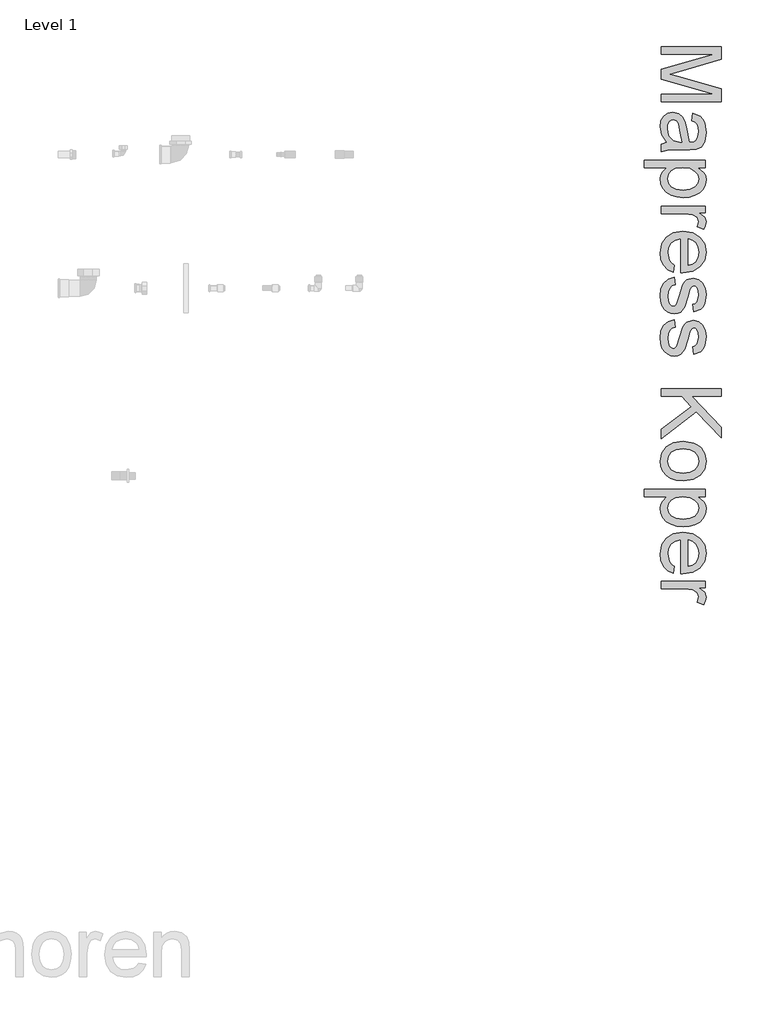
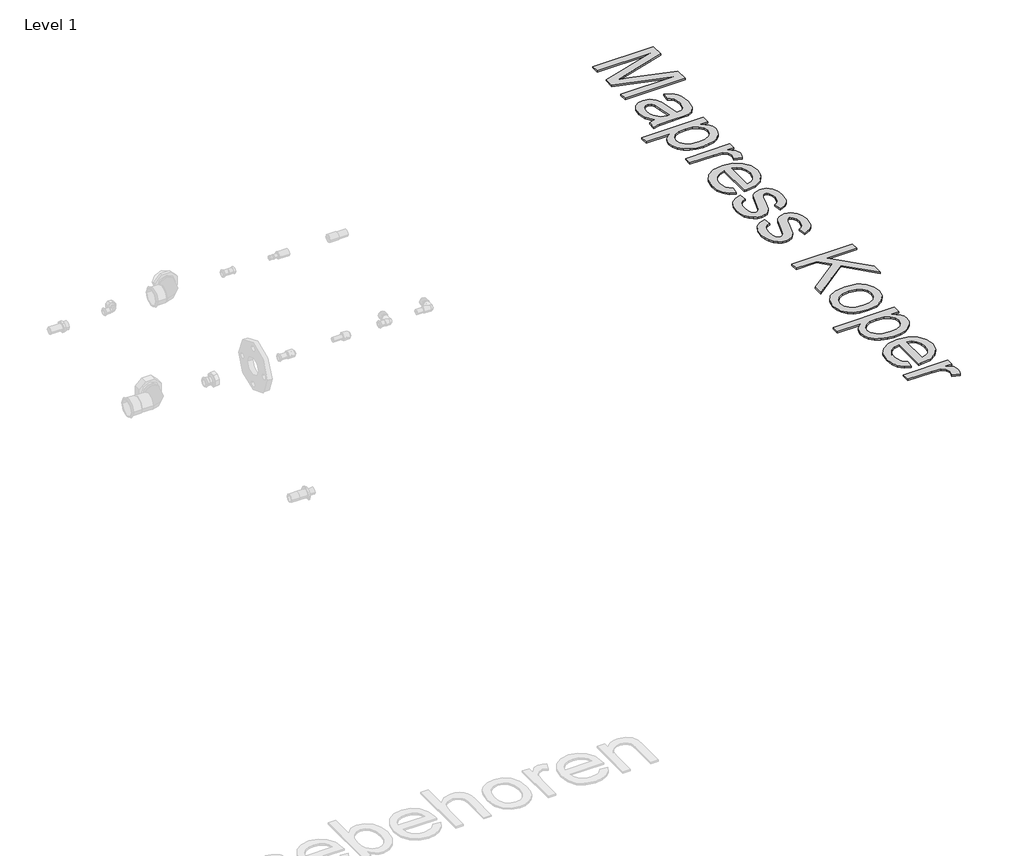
# One storey, part 7 of 7: 1 proxy.
"""IFC4 building model written with IfcOpenShell, lengths in millimetres."""

from ifc_helpers import new_model, si_unit, origin, origin_with_axes, place, context, project, spatial, polyline, outline, extrude, element, save

model = new_model("IFC4")

# Units and contexts
model_context = context("Model", 3, world=origin())
ifc_project = project(units=[si_unit("LENGTHUNIT", "METRE", prefix="MILLI")], contexts=[model_context])

# Site, building, storey
site = spatial("IfcSite", under=ifc_project)
building = spatial("IfcBuilding", under=site)
storey = spatial("IfcBuildingStorey", under=building, Name="Level 1", Elevation=0.0)

# Proxy
placement = place(None, origin())
element("IfcBuildingElementProxy", 1, Name="medium", ObjectType="medium", at=placement, inside=storey, context=model_context, shape_type="SweptSolid", body=[
    extrude(outline(polyline([(7789.7638481, 6032.6824827), (7990.6764684, 6032.6824827), (7990.6764684, 5989.468611), (7849.0664258, 5948.3639294), (7819.4887134, 5940.0743218), (7851.5189724, 5931.0980011), (7990.6764684, 5890.6800326), (7990.6764684, 5847.4661609), (7789.7638481, 5847.4661609), (7789.7638481, 5872.5802384), (7965.5623909, 5872.5802384), (7789.7638481, 5923.0536482), (7789.7638481, 5957.0949954), (7965.5623909, 6007.5684052), (7789.7638481, 6007.5684052), (7789.7638481, 6032.6824827)])), origin_with_axes(), (0.0, 0.0, 1.0), 5.0),
    extrude(outline(polyline([(7808.5994063, 5712.4779941), (7791.5787327, 5736.8317822), (7786.6245885, 5763.7362188), (7789.6044326, 5784.7238866), (7798.5439651, 5800.2055872), (7812.1188107, 5809.752125), (7829.0045943, 5812.9343043), (7848.870222, 5808.1273129), (7863.2911962, 5795.4966977), (7871.5317529, 5777.9119383), (7875.3086748, 5756.1823751), (7883.9416389, 5712.6251469), (7889.5334452, 5712.4779941), (7900.7415834, 5714.2070395), (7908.0746978, 5719.3941756), (7913.5193513, 5730.9947212), (7915.3342358, 5747.1570035), (7914.1263566, 5762.117538), (7910.502719, 5772.5653867), (7903.8011353, 5779.6900346), (7893.359418, 5784.680967), (7896.4986777, 5809.7950446), (7921.024144, 5798.930263), (7929.2769634, 5789.6718994), (7935.3960673, 5777.053547), (7940.4483134, 5743.919642), (7935.9846785, 5713.4835382), (7924.7765404, 5696.2911863), (7907.7313413, 5688.5901899), (7885.7565234, 5687.3639166), (7854.5110793, 5687.3639166), (7810.8802747, 5686.0885923), (7789.7638481, 5681.0853972), (7789.7638481, 5706.1994747), (7808.5994063, 5712.4779941)]), holes=[polyline([(7858.8275614, 5712.4779941), (7851.1265649, 5752.9940645), (7847.0553375, 5774.6010004), (7840.4334616, 5784.3866614), (7830.7704279, 5787.8202267), (7823.3024234, 5785.9501599), (7817.1833195, 5780.3399595), (7813.0998294, 5771.1122528), (7811.738666, 5758.3896671), (7813.2408508, 5744.9006606), (7817.7474052, 5732.981284), (7832.2910068, 5716.5982725), (7851.7151761, 5712.6251469), (7858.8275614, 5712.4779941)])]), origin_with_axes(), (0.0, 0.0, 1.0), 5.0),
    extrude(outline(polyline([(7733.2571737, 5652.83206), (7937.3090537, 5652.83206), (7937.3090537, 5627.7179824), (7912.6854855, 5627.7179824), (7933.5076064, 5610.3539523), (7938.7131366, 5599.6608489), (7940.4483134, 5586.9076064), (7938.0202922, 5569.923721), (7930.7362287, 5555.0735511), (7919.0375812, 5542.9824962), (7903.3658083, 5534.2759557), (7884.8613439, 5529.0152431), (7864.6646224, 5527.2616723), (7843.1864452, 5529.2421037), (7823.9768737, 5535.1833979), (7808.0107951, 5544.8954826), (7796.2630967, 5558.1882853), (7789.0342155, 5573.669986), (7786.6245885, 5589.9487643), (7788.2371379, 5601.4941275), (7793.0747861, 5611.8009548), (7809.3842212, 5627.7179824), (7733.2571737, 5627.7179824), (7733.2571737, 5652.83206)]), holes=[polyline([(7862.3592285, 5627.7179824), (7839.8448504, 5625.001787), (7824.099501, 5616.8532008), (7814.8288747, 5604.829591), (7811.738666, 5590.4883245), (7814.9392393, 5575.9140661), (7824.5409594, 5563.5838879), (7840.8626573, 5555.1777843), (7864.223164, 5552.3757498), (7886.6149147, 5555.1103393), (7902.5809933, 5563.3141078), (7912.1459252, 5575.3193236), (7915.3342358, 5589.4582549), (7911.9435901, 5603.6523686), (7901.7716529, 5616.1174368), (7885.1372554, 5624.817846), (7862.3592285, 5627.7179824)])]), origin_with_axes(), (0.0, 0.0, 1.0), 5.0),
    extrude(outline(polyline([(7789.7638481, 5499.008335), (7937.3090537, 5499.008335), (7937.3090537, 5477.0335172), (7915.4813886, 5477.0335172), (7935.592271, 5461.4353206), (7940.4483134, 5445.7390221), (7938.5108015, 5433.2310343), (7932.698266, 5420.5268427), (7910.1838879, 5428.9145522), (7915.3342358, 5446.572888), (7910.3800916, 5460.773133), (7896.6458305, 5469.8230301), (7867.3133727, 5473.8942575), (7789.7638481, 5473.8942575), (7789.7638481, 5499.008335)])), origin_with_axes(), (0.0, 0.0, 1.0), 5.0),
    extrude(outline(polyline([(7833.7134838, 5301.52928), (7830.5742241, 5276.9057118), (7812.0207089, 5285.7777993), (7798.1515576, 5299.9351247), (7789.5063307, 5319.0588571), (7786.6245885, 5342.8301654), (7791.5971268, 5372.2975132), (7806.5147417, 5394.9713068), (7830.4086772, 5409.4290692), (7862.3101776, 5414.2483234), (7895.2846671, 5409.3800183), (7919.9450235, 5394.7751031), (7935.3224909, 5372.4078778), (7940.4483134, 5344.2526424), (7935.3347536, 5316.9741925), (7919.9940744, 5295.1771843), (7895.382769, 5280.8849687), (7862.4573304, 5276.1208969), (7855.6883017, 5276.2680497), (7855.6883017, 5389.1342458), (7836.8895317, 5384.7871069), (7823.0694314, 5374.6887461), (7814.5713574, 5360.1144878), (7811.738666, 5342.339656), (7816.9871158, 5317.7160878), (7823.7929327, 5308.5680889), (7833.7134838, 5301.52928)]), holes=[polyline([(7880.8023792, 5389.1342458), (7880.8023792, 5301.2349744), (7894.0706565, 5304.6317515), (7903.562012, 5311.2904156), (7912.3911799, 5325.9321191), (7915.3342358, 5344.3507443), (7912.9859224, 5361.2794474), (7905.9409822, 5375.2773573), (7894.9597047, 5385.0078361), (7880.8023792, 5389.1342458)])]), origin_with_axes(), (0.0, 0.0, 1.0), 5.0),
    extrude(outline(polyline([(7833.7134838, 5260.4245984), (7836.8527435, 5235.3105209), (7826.1105893, 5231.3496581), (7818.2133891, 5223.6854499), (7813.3573468, 5212.2688453), (7811.738666, 5197.0507934), (7813.2224567, 5182.0166825), (7817.6738288, 5171.4462065), (7824.1240265, 5165.1922126), (7831.6042937, 5163.107548), (7838.0054404, 5165.2044754), (7842.8860082, 5171.4952575), (7850.0474444, 5197.345099), (7862.3347031, 5235.1633681), (7868.5089892, 5244.7344314), (7876.6821009, 5251.669007), (7896.9401361, 5257.2853388), (7915.6530669, 5252.7726529), (7929.9514138, 5240.4608688), (7937.3826301, 5224.4947902), (7940.4483134, 5202.8878544), (7935.5186946, 5172.3291233), (7929.7184218, 5160.900256), (7922.1768409, 5152.904954), (7899.6379374, 5144.2719898), (7896.4986777, 5169.3860674), (7904.4020092, 5172.5559839), (7910.3555662, 5178.8283719), (7915.3342358, 5200.9258171), (7914.1447507, 5215.3467913), (7910.5762954, 5224.9607741), (7905.4259474, 5230.3686394), (7899.4907846, 5232.1712612), (7892.1821956, 5229.1791543), (7886.6394402, 5219.8104262), (7881.2928885, 5198.1789649), (7869.4716138, 5161.3171889), (7856.0807091, 5144.1984134), (7846.2337344, 5139.5447062), (7834.2530441, 5137.9934704), (7821.8676836, 5139.8144863), (7810.2180871, 5145.277534), (7800.2178282, 5154.1741469), (7792.7804805, 5166.2958586), (7788.1635615, 5180.937562), (7786.6245885, 5197.3941499), (7789.5921699, 5222.7166939), (7798.4949142, 5241.1966328), (7813.2347194, 5253.5329424), (7833.7134838, 5260.4245984)])), origin_with_axes(), (0.0, 0.0, 1.0), 5.0),
    extrude(outline(polyline([(7833.7134838, 5119.1579123), (7836.8527435, 5094.0438348), (7826.1105893, 5090.0829719), (7818.2133891, 5082.4187637), (7813.3573468, 5071.0021591), (7811.738666, 5055.7841073), (7813.2224567, 5040.7499964), (7817.6738288, 5030.1795204), (7824.1240265, 5023.9255265), (7831.6042937, 5021.8408618), (7838.0054404, 5023.9377892), (7842.8860082, 5030.2285713), (7850.0474444, 5056.0784129), (7862.3347031, 5093.896682), (7868.5089892, 5103.4677452), (7876.6821009, 5110.4023208), (7896.9401361, 5116.0186526), (7915.6530669, 5111.5059668), (7929.9514138, 5099.1941827), (7937.3826301, 5083.2281041), (7940.4483134, 5061.6211683), (7935.5186946, 5031.0624372), (7929.7184218, 5019.6335699), (7922.1768409, 5011.6382678), (7899.6379374, 5003.0053037), (7896.4986777, 5028.1193812), (7904.4020092, 5031.2892977), (7910.3555662, 5037.5616858), (7915.3342358, 5059.6591309), (7914.1447507, 5074.0801052), (7910.5762954, 5083.694088), (7905.4259474, 5089.1019533), (7899.4907846, 5090.9045751), (7892.1821956, 5087.9124682), (7886.6394402, 5078.54374), (7881.2928885, 5056.9122787), (7869.4716138, 5020.0505028), (7856.0807091, 5002.9317273), (7846.2337344, 4998.27802), (7834.2530441, 4996.7267843), (7821.8676836, 4998.5478002), (7810.2180871, 5004.0108478), (7800.2178282, 5012.9074607), (7792.7804805, 5025.0291725), (7788.1635615, 5039.6708759), (7786.6245885, 5056.1274638), (7789.5921699, 5081.4500078), (7798.4949142, 5099.9299467), (7813.2347194, 5112.2662563), (7833.7134838, 5119.1579123)])), origin_with_axes(), (0.0, 0.0, 1.0), 5.0),
    extrude(outline(polyline([(7789.7638481, 4886.8526951), (7990.6764684, 4886.8526951), (7990.6764684, 4861.7386175), (7892.3293484, 4861.7386175), (7990.6764684, 4758.7316589), (7990.6764684, 4723.6111911), (7908.0746978, 4810.0879854), (7789.7638481, 4720.4719314), (7789.7638481, 4751.1778153), (7891.1030751, 4827.893474), (7858.8275614, 4861.7386175), (7789.7638481, 4861.7386175), (7789.7638481, 4886.8526951)])), origin_with_axes(), (0.0, 0.0, 1.0), 5.0),
    extrude(outline(polyline([(7863.5364509, 4711.0541523), (7899.1106398, 4705.6217615), (7912.9338058, 4698.831273), (7924.1143528, 4689.3245891), (7936.3648232, 4669.1891813), (7940.4483134, 4645.0806478), (7935.4757751, 4618.6973774), (7920.5581602, 4597.6238705), (7896.872691, 4583.8099015), (7865.5965901, 4579.2052452), (7840.2249951, 4581.2408589), (7820.9111904, 4587.3477001), (7806.4472966, 4597.347959), (7795.6254346, 4611.063826), (7788.8748, 4627.354867), (7786.6245885, 4645.0806478), (7791.5787327, 4671.7827493), (7806.4411653, 4692.8317308), (7830.6232751, 4706.4985469), (7863.5364509, 4711.0541523)]), holes=[polyline([(7863.5855018, 4685.9400748), (7840.8565259, 4683.033807), (7824.6635868, 4674.3150037), (7814.9698962, 4661.1938792), (7811.738666, 4645.0806478), (7814.9882903, 4629.0409929), (7824.7371632, 4615.9443938), (7841.1447001, 4607.2255905), (7864.3703168, 4604.3193228), (7886.4371051, 4607.2439846), (7902.4093151, 4616.0179702), (7912.1030056, 4629.1329634), (7915.3342358, 4645.0806478), (7912.1152684, 4661.1938792), (7902.458366, 4674.3150037), (7886.302215, 4683.033807), (7863.5855018, 4685.9400748)])]), origin_with_axes(), (0.0, 0.0, 1.0), 5.0),
    extrude(outline(polyline([(7733.2571737, 4550.951908), (7937.3090537, 4550.951908), (7937.3090537, 4525.8378305), (7912.6854855, 4525.8378305), (7933.5076064, 4508.4738003), (7938.7131366, 4497.780697), (7940.4483134, 4485.0274545), (7938.0202922, 4468.043569), (7930.7362287, 4453.1933992), (7919.0375812, 4441.1023443), (7903.3658083, 4432.3958037), (7884.8613439, 4427.1350912), (7864.6646224, 4425.3815203), (7843.1864452, 4427.3619517), (7823.9768737, 4433.303246), (7808.0107951, 4443.0153306), (7796.2630967, 4456.3081334), (7789.0342155, 4471.789834), (7786.6245885, 4488.0686123), (7788.2371379, 4499.6139756), (7793.0747861, 4509.9208028), (7809.3842212, 4525.8378305), (7733.2571737, 4525.8378305), (7733.2571737, 4550.951908)]), holes=[polyline([(7862.3592285, 4525.8378305), (7839.8448504, 4523.1216351), (7824.099501, 4514.9730489), (7814.8288747, 4502.949439), (7811.738666, 4488.6081726), (7814.9392393, 4474.0339142), (7824.5409594, 4461.703736), (7840.8626573, 4453.2976324), (7864.223164, 4450.4955979), (7886.6149147, 4453.2301874), (7902.5809933, 4461.4339559), (7912.1459252, 4473.4391716), (7915.3342358, 4487.578103), (7911.9435901, 4501.7722166), (7901.7716529, 4514.2372849), (7885.1372554, 4522.9376941), (7862.3592285, 4525.8378305)])]), origin_with_axes(), (0.0, 0.0, 1.0), 5.0),
    extrude(outline(polyline([(7833.7134838, 4293.8269189), (7830.5742241, 4269.2033506), (7812.0207089, 4278.0754381), (7798.1515576, 4292.2327635), (7789.5063307, 4311.3564959), (7786.6245885, 4335.1278042), (7791.5971268, 4364.595152), (7806.5147417, 4387.2689456), (7830.4086772, 4401.726708), (7862.3101776, 4406.5459622), (7895.2846671, 4401.6776571), (7919.9450235, 4387.0727419), (7935.3224909, 4364.7055166), (7940.4483134, 4336.5502812), (7935.3347536, 4309.2718313), (7919.9940744, 4287.4748231), (7895.382769, 4273.1826076), (7862.4573304, 4268.4185357), (7855.6883017, 4268.5656885), (7855.6883017, 4381.4318846), (7836.8895317, 4377.0847457), (7823.0694314, 4366.986385), (7814.5713574, 4352.4121266), (7811.738666, 4334.6372948), (7816.9871158, 4310.0137266), (7823.7929327, 4300.8657277), (7833.7134838, 4293.8269189)]), holes=[polyline([(7880.8023792, 4381.4318846), (7880.8023792, 4293.5326133), (7894.0706565, 4296.9293903), (7903.562012, 4303.5880545), (7912.3911799, 4318.2297579), (7915.3342358, 4336.6483831), (7912.9859224, 4353.5770862), (7905.9409822, 4367.5749962), (7894.9597047, 4377.3054749), (7880.8023792, 4381.4318846)])]), origin_with_axes(), (0.0, 0.0, 1.0), 5.0),
    extrude(outline(polyline([(7789.7638481, 4243.3044582), (7937.3090537, 4243.3044582), (7937.3090537, 4221.3296403), (7915.4813886, 4221.3296403), (7935.592271, 4205.7314437), (7940.4483134, 4190.0351453), (7938.5108015, 4177.5271574), (7932.698266, 4164.8229659), (7910.1838879, 4173.2106754), (7915.3342358, 4190.8690111), (7910.3800916, 4205.0692561), (7896.6458305, 4214.1191532), (7867.3133727, 4218.1903806), (7789.7638481, 4218.1903806), (7789.7638481, 4243.3044582)])), origin_with_axes(), (0.0, 0.0, 1.0), 5.0),
])

save(model, "model.ifc")
